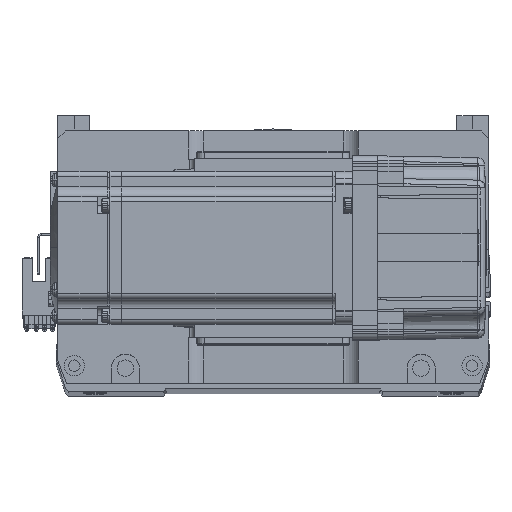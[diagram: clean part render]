
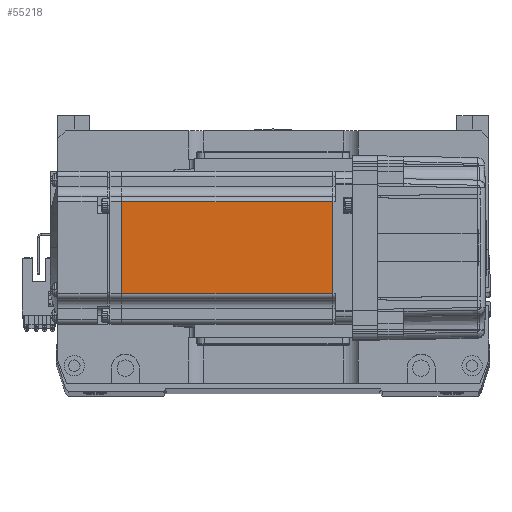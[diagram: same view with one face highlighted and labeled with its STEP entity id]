
A CAD part, top view. The second image highlights one B-rep face of the part: STEP entity #55218.
In plain terms, the highlighted planar face has unit normal (0, 0, 1).
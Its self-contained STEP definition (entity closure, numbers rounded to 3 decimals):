
#243 = DIRECTION ( 'NONE',  ( 0., 0., 1. ) ) ;
#265 = FACE_OUTER_BOUND ( 'NONE', #17832, .T. ) ;
#789 = LINE ( 'NONE', #7880, #62419 ) ;
#2357 = LINE ( 'NONE', #11393, #59456 ) ;
#2387 = VECTOR ( 'NONE', #21495, 1000. ) ;
#3366 = CARTESIAN_POINT ( 'NONE',  ( -7.75, 18., 30. ) ) ;
#4279 = EDGE_CURVE ( 'NONE', #7932, #15257, #15433, .T. ) ;
#4960 = CARTESIAN_POINT ( 'NONE',  ( -6.5, -25., 30. ) ) ;
#5591 = DIRECTION ( 'NONE',  ( 1., 0., 0. ) ) ;
#6377 = CARTESIAN_POINT ( 'NONE',  ( -90.45, 18., 30. ) ) ;
#7880 = CARTESIAN_POINT ( 'NONE',  ( -90.45, 0., 30. ) ) ;
#7932 = VERTEX_POINT ( 'NONE', #59739 ) ;
#9271 = CARTESIAN_POINT ( 'NONE',  ( -7.75, 0., 30. ) ) ;
#9683 = PLANE ( 'NONE',  #56840 ) ;
#10974 = DIRECTION ( 'NONE',  ( -1., 0., 0. ) ) ;
#11393 = CARTESIAN_POINT ( 'NONE',  ( -6.5, 18., 30. ) ) ;
#14315 = ORIENTED_EDGE ( 'NONE', *, *, #21179, .T. ) ;
#15257 = VERTEX_POINT ( 'NONE', #60669 ) ;
#15433 = LINE ( 'NONE', #27113, #2387 ) ;
#17773 = DIRECTION ( 'NONE',  ( 0., -1., 0. ) ) ;
#17832 = EDGE_LOOP ( 'NONE', ( #34765, #14315, #25272, #55894 ) ) ;
#21179 = EDGE_CURVE ( 'NONE', #62325, #36339, #2357, .T. ) ;
#21495 = DIRECTION ( 'NONE',  ( -1., 0., 0. ) ) ;
#25272 = ORIENTED_EDGE ( 'NONE', *, *, #51099, .T. ) ;
#27113 = CARTESIAN_POINT ( 'NONE',  ( -6.5, -18., 30. ) ) ;
#30568 = VECTOR ( 'NONE', #34450, 1000. ) ;
#34450 = DIRECTION ( 'NONE',  ( 0., -1., 0. ) ) ;
#34765 = ORIENTED_EDGE ( 'NONE', *, *, #39444, .F. ) ;
#36339 = VERTEX_POINT ( 'NONE', #6377 ) ;
#39444 = EDGE_CURVE ( 'NONE', #62325, #7932, #43680, .T. ) ;
#43680 = LINE ( 'NONE', #9271, #30568 ) ;
#51099 = EDGE_CURVE ( 'NONE', #36339, #15257, #789, .T. ) ;
#55218 = ADVANCED_FACE ( 'NONE', ( #265 ), #9683, .T. ) ;
#55894 = ORIENTED_EDGE ( 'NONE', *, *, #4279, .F. ) ;
#56840 = AXIS2_PLACEMENT_3D ( 'NONE', #4960, #243, #5591 ) ;
#59456 = VECTOR ( 'NONE', #10974, 1000. ) ;
#59739 = CARTESIAN_POINT ( 'NONE',  ( -7.75, -18., 30. ) ) ;
#60669 = CARTESIAN_POINT ( 'NONE',  ( -90.45, -18., 30. ) ) ;
#62325 = VERTEX_POINT ( 'NONE', #3366 ) ;
#62419 = VECTOR ( 'NONE', #17773, 1000. ) ;
